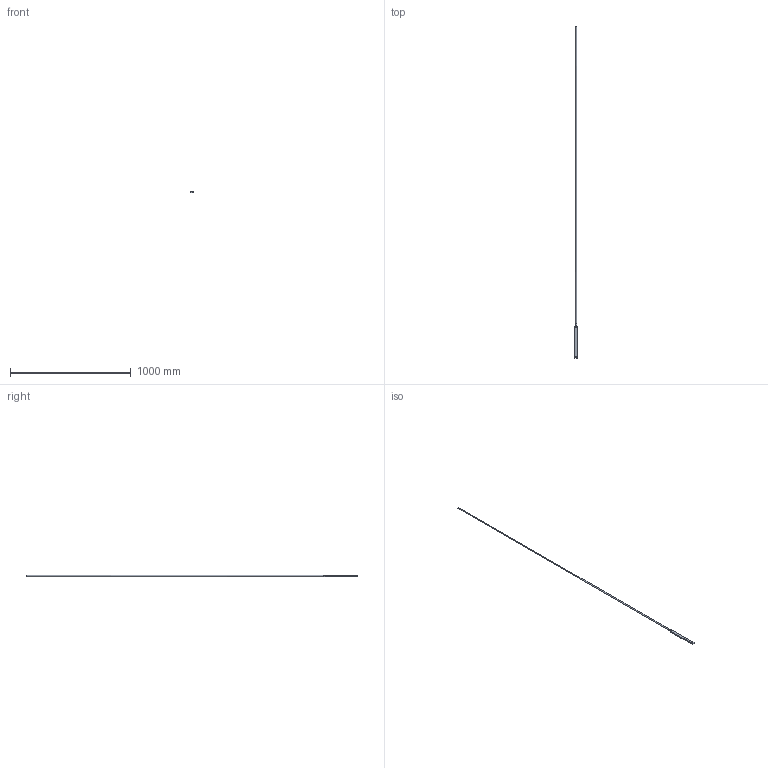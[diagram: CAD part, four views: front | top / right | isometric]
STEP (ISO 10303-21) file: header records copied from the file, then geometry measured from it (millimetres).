
FILE_DESCRIPTION (( 'STEP AP203' ), '1' );
FILE_NAME ('CAYLAR NMR Probe - Model RA.STEP', '2021-08-10T12:42:18', ( '' ), ( '' ), 'SwSTEP 2.0', 'SolidWorks 2016', '' );
FILE_SCHEMA (( 'CONFIG_CONTROL_DESIGN' ));
Length unit declared in the file: millimetre
Products named in the file (1): CAYLAR NMR Probe - Model RA
Bounding box: 21 x 2752.5 x 10 mm (x, y, z)
Volume: 217786.5 mm3; surface area: 88050.7 mm2
Topology: 1 solids, 1 shells, 62 faces, 162 edges, 107 vertices
Faces by surface type: plane 45, cylinder 8, cone 7, bspline 2
Full cylindrical faces by diameter (mm): 2.5 x1, 9.147 x1
Entity records: 2223 total; most frequent: CARTESIAN_POINT 663, ORIENTED_EDGE 316, DIRECTION 278, EDGE_CURVE 158, LINE 120, VECTOR 120, VERTEX_POINT 106, AXIS2_PLACEMENT_3D 79
